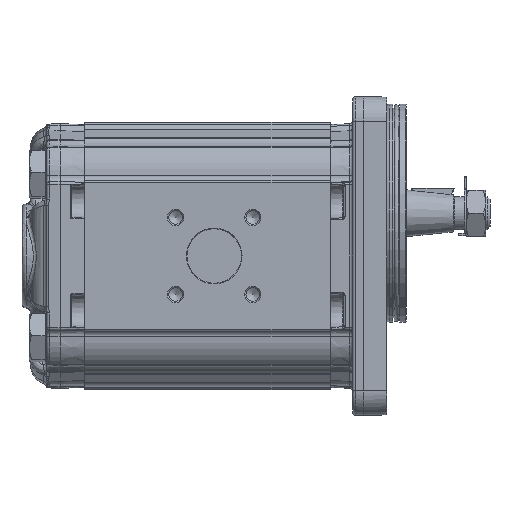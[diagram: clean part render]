
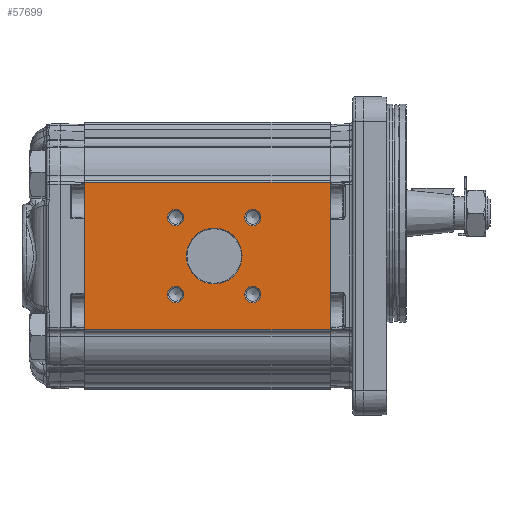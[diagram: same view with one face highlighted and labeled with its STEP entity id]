
A CAD part, left-side view. The second image highlights one B-rep face of the part: STEP entity #57699.
In plain terms, the highlighted planar face has unit normal (-1, 0, 0) as drawn and (1, 0, 0) by its records, which use the part's own axes.
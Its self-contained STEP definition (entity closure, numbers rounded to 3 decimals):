
#3912=PLANE('',#61370);
#5404=CIRCLE('',#61371,10.2);
#5405=CIRCLE('',#61372,3.);
#5406=CIRCLE('',#61373,3.);
#5407=CIRCLE('',#61374,3.);
#5408=CIRCLE('',#61375,3.);
#11219=ORIENTED_EDGE('',*,*,#20752,.T.);
#11220=ORIENTED_EDGE('',*,*,#20753,.T.);
#11221=ORIENTED_EDGE('',*,*,#20754,.T.);
#11222=ORIENTED_EDGE('',*,*,#20755,.T.);
#11223=ORIENTED_EDGE('',*,*,#20756,.T.);
#11224=ORIENTED_EDGE('',*,*,#20731,.F.);
#11225=ORIENTED_EDGE('',*,*,#20757,.F.);
#11226=ORIENTED_EDGE('',*,*,#20661,.T.);
#11227=ORIENTED_EDGE('',*,*,#20758,.T.);
#20661=EDGE_CURVE('',#25758,#25757,#28573,.T.);
#20731=EDGE_CURVE('',#25825,#25826,#28585,.T.);
#20752=EDGE_CURVE('',#25830,#25830,#5404,.F.);
#20753=EDGE_CURVE('',#25831,#25831,#5405,.F.);
#20754=EDGE_CURVE('',#25832,#25832,#5406,.F.);
#20755=EDGE_CURVE('',#25833,#25833,#5407,.F.);
#20756=EDGE_CURVE('',#25834,#25834,#5408,.F.);
#20757=EDGE_CURVE('',#25758,#25825,#28602,.T.);
#20758=EDGE_CURVE('',#25757,#25826,#28603,.T.);
#25757=VERTEX_POINT('',#101337);
#25758=VERTEX_POINT('',#101339);
#25825=VERTEX_POINT('',#101476);
#25826=VERTEX_POINT('',#101478);
#25830=VERTEX_POINT('',#101512);
#25831=VERTEX_POINT('',#101514);
#25832=VERTEX_POINT('',#101516);
#25833=VERTEX_POINT('',#101518);
#25834=VERTEX_POINT('',#101520);
#28573=LINE('',#101338,#30439);
#28585=LINE('',#101477,#30451);
#28602=LINE('',#101521,#30468);
#28603=LINE('',#101522,#30469);
#30439=VECTOR('',#68014,1000.);
#30451=VECTOR('',#68144,1000.);
#30468=VECTOR('',#68197,1000.);
#30469=VECTOR('',#68198,1000.);
#32988=EDGE_LOOP('',(#11219));
#32989=EDGE_LOOP('',(#11220));
#32990=EDGE_LOOP('',(#11221));
#32991=EDGE_LOOP('',(#11222));
#32992=EDGE_LOOP('',(#11223));
#32993=EDGE_LOOP('',(#11224,#11225,#11226,#11227));
#35945=FACE_BOUND('',#32988,.T.);
#35946=FACE_BOUND('',#32989,.T.);
#35947=FACE_BOUND('',#32990,.T.);
#35948=FACE_BOUND('',#32991,.T.);
#35949=FACE_BOUND('',#32992,.T.);
#35950=FACE_BOUND('',#32993,.T.);
#57699=ADVANCED_FACE('',(#35945,#35946,#35947,#35948,#35949,#35950),#3912,
 .T.);
#61370=AXIS2_PLACEMENT_3D('',#101510,#68185,#68186);
#61371=AXIS2_PLACEMENT_3D('',#101511,#68187,#68188);
#61372=AXIS2_PLACEMENT_3D('',#101513,#68189,#68190);
#61373=AXIS2_PLACEMENT_3D('',#101515,#68191,#68192);
#61374=AXIS2_PLACEMENT_3D('',#101517,#68193,#68194);
#61375=AXIS2_PLACEMENT_3D('',#101519,#68195,#68196);
#68014=DIRECTION('',(0.,0.,1.));
#68144=DIRECTION('',(0.,0.,1.));
#68185=DIRECTION('',(1.,0.,0.));
#68186=DIRECTION('',(0.,0.,-1.));
#68187=DIRECTION('',(1.,0.,0.));
#68188=DIRECTION('',(0.,0.,-1.));
#68189=DIRECTION('',(1.,0.,0.));
#68190=DIRECTION('',(0.,0.,-1.));
#68191=DIRECTION('',(1.,0.,0.));
#68192=DIRECTION('',(0.,0.,-1.));
#68193=DIRECTION('',(1.,0.,0.));
#68194=DIRECTION('',(0.,0.,-1.));
#68195=DIRECTION('',(1.,0.,0.));
#68196=DIRECTION('',(0.,0.,-1.));
#68197=DIRECTION('',(0.,-1.,0.));
#68198=DIRECTION('',(0.,-1.,0.));
#101337=CARTESIAN_POINT('',(43.,90.,27.048));
#101338=CARTESIAN_POINT('',(43.,90.,27.048));
#101339=CARTESIAN_POINT('',(43.,90.,-27.048));
#101476=CARTESIAN_POINT('',(43.,0.,-27.048));
#101477=CARTESIAN_POINT('',(43.,0.,27.048));
#101478=CARTESIAN_POINT('',(43.,0.,27.048));
#101510=CARTESIAN_POINT('',(43.,90.,27.048));
#101511=CARTESIAN_POINT('',(43.,42.5,0.));
#101512=CARTESIAN_POINT('',(43.,42.5,-10.2));
#101513=CARTESIAN_POINT('',(43.,56.642,-14.142));
#101514=CARTESIAN_POINT('',(43.,56.642,-17.142));
#101515=CARTESIAN_POINT('',(43.,56.642,14.142));
#101516=CARTESIAN_POINT('',(43.,56.642,11.142));
#101517=CARTESIAN_POINT('',(43.,28.358,14.142));
#101518=CARTESIAN_POINT('',(43.,28.358,11.142));
#101519=CARTESIAN_POINT('',(43.,28.358,-14.142));
#101520=CARTESIAN_POINT('',(43.,28.358,-17.142));
#101521=CARTESIAN_POINT('',(43.,90.,-27.048));
#101522=CARTESIAN_POINT('',(43.,90.,27.048));
